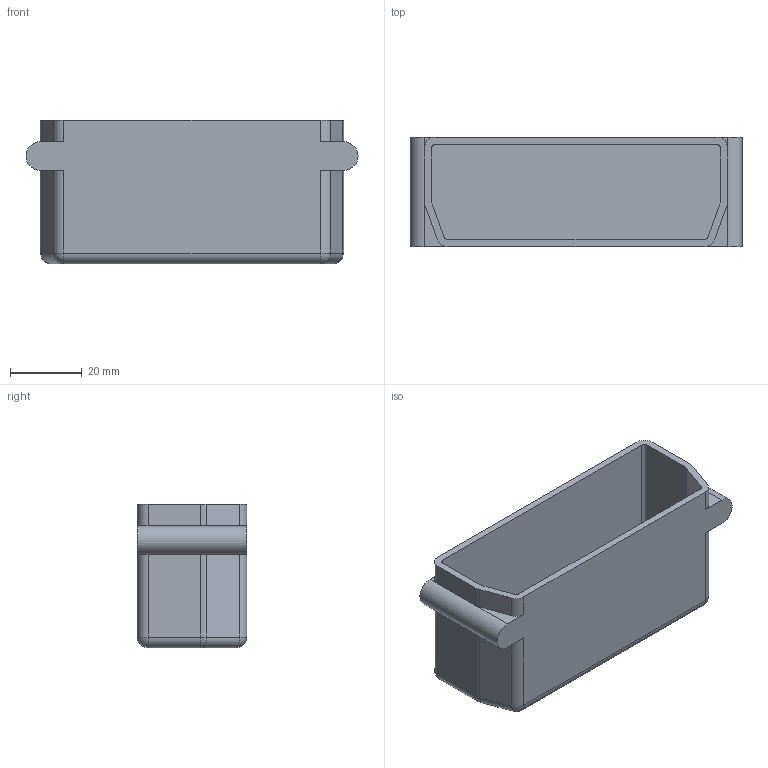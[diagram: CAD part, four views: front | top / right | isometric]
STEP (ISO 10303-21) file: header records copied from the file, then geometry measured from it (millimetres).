
FILE_DESCRIPTION (( 'STEP AP214' ), '1' );
FILE_NAME ('083171-4.STEP', '2013-01-17T08:54:05', ( '' ), ( '' ), 'SwSTEP 2.0', 'SolidWorks 2012', '' );
FILE_SCHEMA (( 'AUTOMOTIVE_DESIGN' ));
Length unit declared in the file: millimetre
Products named in the file (1): 083171-4
Bounding box: 92.5 x 30.5 x 40 mm (x, y, z)
Volume: 22796.1 mm3; surface area: 21948.4 mm2
Topology: 1 solids, 1 shells, 59 faces, 148 edges, 88 vertices
Faces by surface type: plane 27, cylinder 26, sphere 4, torus 2
Entity records: 1754 total; most frequent: DIRECTION 318, CARTESIAN_POINT 292, ORIENTED_EDGE 288, EDGE_CURVE 144, AXIS2_PLACEMENT_3D 114, VECTOR 90, LINE 90, VERTEX_POINT 88
